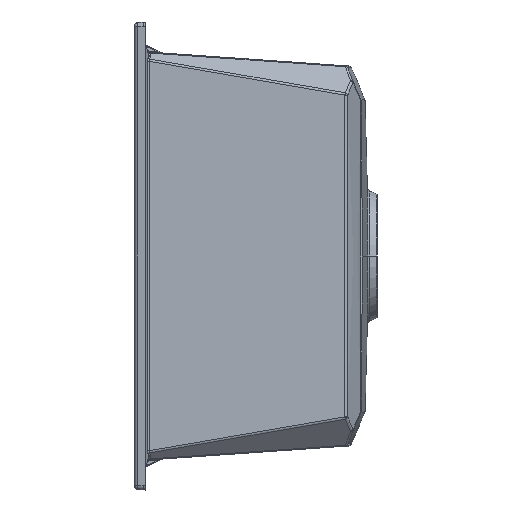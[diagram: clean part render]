
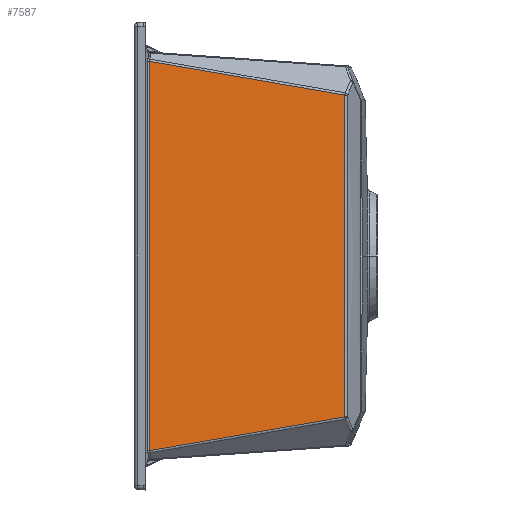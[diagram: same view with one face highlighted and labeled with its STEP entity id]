
A CAD part, left-side view. The second image highlights one B-rep face of the part: STEP entity #7587.
In plain terms, the highlighted planar face has unit normal (-0.998, -0.07, 0).
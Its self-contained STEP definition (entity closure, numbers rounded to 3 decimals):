
#265 = VERTEX_POINT ( 'NONE', #36322 ) ;
#472 = CARTESIAN_POINT ( 'NONE',  ( 40.652, -185.506, -67.931 ) ) ;
#1471 = CARTESIAN_POINT ( 'NONE',  ( 27.019, 9.442, -400. ) ) ;
#1721 = PLANE ( 'NONE',  #3663 ) ;
#3367 = LINE ( 'NONE', #30140, #7841 ) ;
#3663 = AXIS2_PLACEMENT_3D ( 'NONE', #1471, #4372, #30175 ) ;
#4372 = DIRECTION ( 'NONE',  ( -0.998, -0.07, 0. ) ) ;
#4631 = LINE ( 'NONE', #26816, #9110 ) ;
#7155 = B_SPLINE_CURVE_WITH_KNOTS ( 'NONE', 3,
 ( #472, #20308, #31800, #26185, #8917, #29067 ),
 .UNSPECIFIED., .F., .F.,
 ( 4, 2, 4 ),
 ( 0., 0.5, 1. ),
 .UNSPECIFIED. ) ;
#7587 = ADVANCED_FACE ( 'NONE', ( #12827 ), #1721, .T. ) ;
#7841 = VECTOR ( 'NONE', #18118, 1000. ) ;
#7889 = CARTESIAN_POINT ( 'NONE',  ( 40.652, -185.506, -67.931 ) ) ;
#8917 = CARTESIAN_POINT ( 'NONE',  ( 40.699, -186.188, -317.216 ) ) ;
#9110 = VECTOR ( 'NONE', #17679, 1000. ) ;
#10014 = CARTESIAN_POINT ( 'NONE',  ( 31.286, -51.567, -44.813 ) ) ;
#10149 = EDGE_CURVE ( 'NONE', #12810, #265, #7155, .T. ) ;
#10785 = VERTEX_POINT ( 'NONE', #29932 ) ;
#12810 = VERTEX_POINT ( 'NONE', #7889 ) ;
#12827 = FACE_OUTER_BOUND ( 'NONE', #19195, .T. ) ;
#14526 = ORIENTED_EDGE ( 'NONE', *, *, #28538, .F. ) ;
#14869 = CARTESIAN_POINT ( 'NONE',  ( 27.947, -3.819, -36.571 ) ) ;
#17504 = EDGE_CURVE ( 'NONE', #34004, #10785, #3367, .T. ) ;
#17679 = DIRECTION ( 'NONE',  ( -0.069, 0.983, -0.17 ) ) ;
#18118 = DIRECTION ( 'NONE',  ( 0., 0., -1. ) ) ;
#19195 = EDGE_LOOP ( 'NONE', ( #14526, #27017, #33124, #23280 ) ) ;
#20074 = VECTOR ( 'NONE', #33431, 1000. ) ;
#20308 = CARTESIAN_POINT ( 'NONE',  ( 40.699, -186.188, -117.784 ) ) ;
#22293 = LINE ( 'NONE', #10014, #20074 ) ;
#23280 = ORIENTED_EDGE ( 'NONE', *, *, #17504, .T. ) ;
#26185 = CARTESIAN_POINT ( 'NONE',  ( 40.729, -186.609, -267.358 ) ) ;
#26816 = CARTESIAN_POINT ( 'NONE',  ( 27.464, 3.091, -399.622 ) ) ;
#27017 = ORIENTED_EDGE ( 'NONE', *, *, #10149, .F. ) ;
#28538 = EDGE_CURVE ( 'NONE', #265, #10785, #4631, .T. ) ;
#29067 = CARTESIAN_POINT ( 'NONE',  ( 40.652, -185.506, -367.069 ) ) ;
#29932 = CARTESIAN_POINT ( 'NONE',  ( 27.947, -3.819, -398.429 ) ) ;
#30140 = CARTESIAN_POINT ( 'NONE',  ( 27.947, -3.819, -400. ) ) ;
#30175 = DIRECTION ( 'NONE',  ( 0.07, -0.998, 0. ) ) ;
#31800 = CARTESIAN_POINT ( 'NONE',  ( 40.729, -186.609, -167.642 ) ) ;
#33124 = ORIENTED_EDGE ( 'NONE', *, *, #35735, .F. ) ;
#33431 = DIRECTION ( 'NONE',  ( 0.069, -0.983, -0.17 ) ) ;
#34004 = VERTEX_POINT ( 'NONE', #14869 ) ;
#35735 = EDGE_CURVE ( 'NONE', #34004, #12810, #22293, .T. ) ;
#36322 = CARTESIAN_POINT ( 'NONE',  ( 40.652, -185.506, -367.069 ) ) ;
